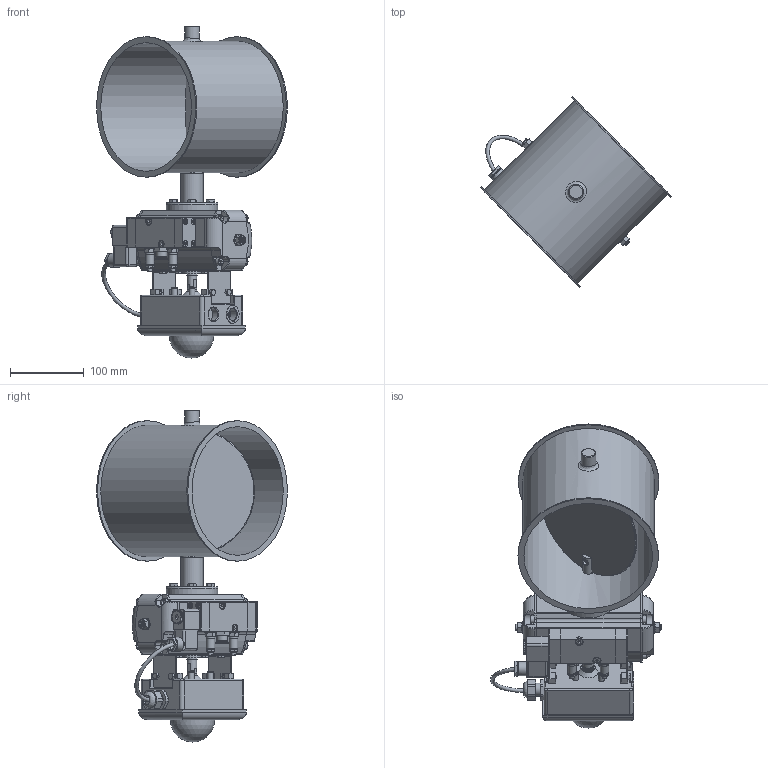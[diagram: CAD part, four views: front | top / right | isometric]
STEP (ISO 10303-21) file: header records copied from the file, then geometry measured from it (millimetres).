
FILE_DESCRIPTION((''),'2;1');
FILE_NAME('U:\Wolfgang\Marcel-3D\fertig\Kapitel 8\1721213.stp','2011-05-03T15:00:17',('TK1'),(''),'Autodesk Inventor 2010','Autodesk Inventor 2010','');
FILE_SCHEMA(('AUTOMOTIVE_DESIGN { 1 0 10303 214 1 1 1 1 }'));
Length unit declared in the file: millimetre
Products named in the file (41): 1721213; Bolzen D15; Scheibe170; DIN 6912 M6 x 16; 1721211-1; Antrieb Flowserve; BuchseD15 70-50; Pneumatischer SchwenkantriebS63D-2; Body; roter Verschluss; A1 Schwenkantrieb; Body S063D; End Cap L; End Cap R; DIN EN ISO 4762 M6 x 12; DIN EN ISO 4018 M5x10; DIN 916 M8  x  40; DIN 555 - ersetzt durch DIN EN 24034 M8; DIN 125-1 A A 8,4; DIN 125-1 A A 13; A1 Ventileinheit-2; Ventil1; Ventil1a; Ventil1b; Ventil1a_1; Ventil1b_1; ISO 7046-1 Z M4 x 25 - 4.8 - Z; Ventil1c; Ventil1d; ISO 7047 (H) M3x8 - 4.8 - H; DIN 7984 M6 x 40; DIN EN ISO 7042 M8; Ventil1e; Ventil1f; DIN EN 24766 M6 x 30; DIN 439-2 - ersetzt durch DIN EN 24035/28675 M6; entlüftung; Halterung; Deckel2; Schlauch 1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
Assembly tree (79 placements, depth 5):
  1721213
    Bolzen D15  x2
    Scheibe170
    DIN 6912 M6 x 16  x2
    1721211-1
    Antrieb Flowserve
      BuchseD15 70-50
      Pneumatischer SchwenkantriebS63D-2
        Body
        roter Verschluss
        A1 Schwenkantrieb
          Body S063D
          End Cap L
          End Cap R
          DIN EN ISO 4762 M6 x 12  x8
          DIN EN ISO 4018 M5x10  x4
          DIN 916 M8  x  40  x2
          DIN 555 - ersetzt durch DIN EN 24034 M8  x2
          DIN 125-1 A A 8,4  x2
          DIN 125-1 A A 13  x2
        A1 Ventileinheit-2
          Ventil1
          Ventil1a
          Ventil1b
          Ventil1a_1
          Ventil1b_1
          ISO 7046-1 Z M4 x 25 - 4.8 - Z  x8
          Ventil1c
          Ventil1d
          ISO 7047 (H) M3x8 - 4.8 - H
          DIN 7984 M6 x 40  x2
          DIN EN ISO 7042 M8  x2
          DIN 125-1 A A 8,4  x2
          Ventil1e  x2
          Ventil1f  x2
          DIN EN 24766 M6 x 30  x2
          DIN 439-2 - ersetzt durch DIN EN 24035/28675 M6  x2
          entlüftung
        Halterung  x2
        DIN EN ISO 4018 M5x10  x4
        Deckel2
        Schlauch 1
      DIN EN ISO 4018 M6x25  x4
Bounding box: 258.06 x 258.12 x 449 mm (x, y, z)
Volume: 1801102 mm3; surface area: 546342.8 mm2
Topology: 78 solids, 79 shells, 1677 faces, 3965 edges, 2520 vertices
Faces by surface type: plane 822, cylinder 326, cone 302, bspline 146, torus 73, sphere 8
Full cylindrical faces by diameter (mm): 2.5 x1, 3 x3, 3.242 x8, 3.571 x8, 4 x8, 4.917 x4, 5 x10, 5.5 x1, 6 x24, 6.647 x1, 8 x6, 8.4 x12, 10 x14, 11.63 x6, 11.9 x2, 12 x1, 12.5 x1, 13 x7, 14 x5, 15 x3, 15.5 x1, 15.918 x1, 16 x5, 16.918 x1, 17 x3, 17.79 x2, 18 x3, 19 x2, 20 x1, 22 x1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
Entity records: 30439 total; most frequent: CARTESIAN_POINT 8253, DIRECTION 4459, ORIENTED_EDGE 3886, EDGE_CURVE 1943, AXIS2_PLACEMENT_3D 1764, VERTEX_POINT 1364, EDGE_LOOP 1358, FACE_OUTER_BOUND 957
